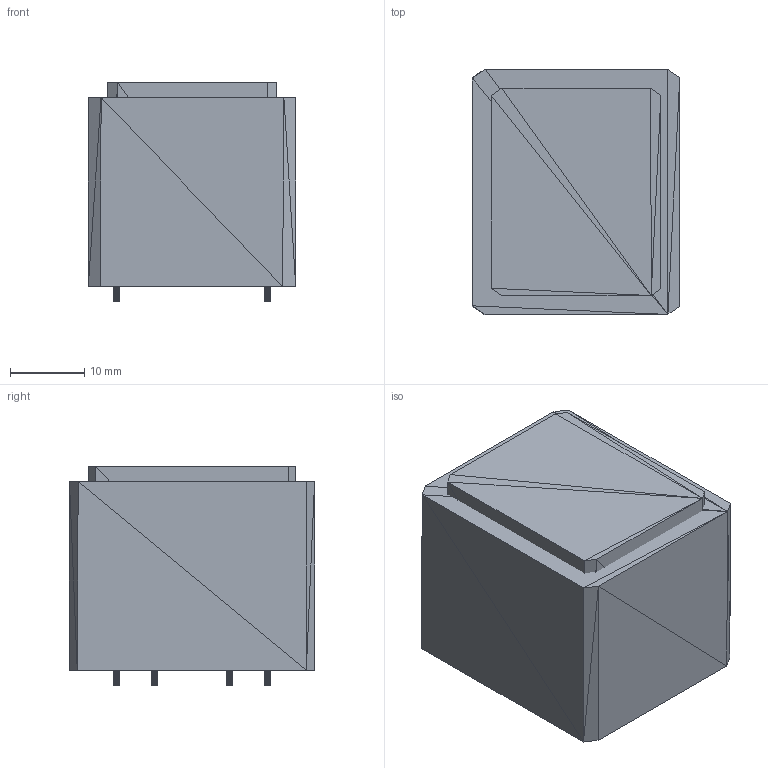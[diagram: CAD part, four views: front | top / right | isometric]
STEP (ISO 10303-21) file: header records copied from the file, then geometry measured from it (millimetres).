
FILE_DESCRIPTION(('HOOPS Exchange Step'),'2;1');
FILE_NAME('***.stp');
FILE_SCHEMA( ('AP242_MANAGED_MODEL_BASED_3D_ENGINEERING_MIM_LF {1 0 10303 442 1 1 4 }') );
Length unit declared in the file: inch
Products named in the file (9): XFRMPCB2S_2; XFRMPCB2S_3; XFRMPCB2S_4; XFRMPCB2S_5; XFRMPCB2S_6; XFRMPCB2S_7; XFRMPCB2S_8; XFRMPCB2S_9; XFRMPCB2S
Assembly tree (8 placements, depth 2):
  XFRMPCB2S
    XFRMPCB2S_2
    XFRMPCB2S_3
    XFRMPCB2S_4
    XFRMPCB2S_5
    XFRMPCB2S_6
    XFRMPCB2S_7
    XFRMPCB2S_8
    XFRMPCB2S_9
Bounding box: 27.94 x 33.03 x 29.47 mm (x, y, z)
Surface area: 8905.3 mm2
Topology: 8 solids, 8 shells, 440 faces, 660 edges, 236 vertices
Faces by surface type: plane 440
Entity records: 8990 total; most frequent: DIRECTION 1576, CARTESIAN_POINT 1354, ORIENTED_EDGE 1320, VECTOR 660, LINE 660, EDGE_CURVE 660, AXIS2_PLACEMENT_3D 458, PLANE 440
